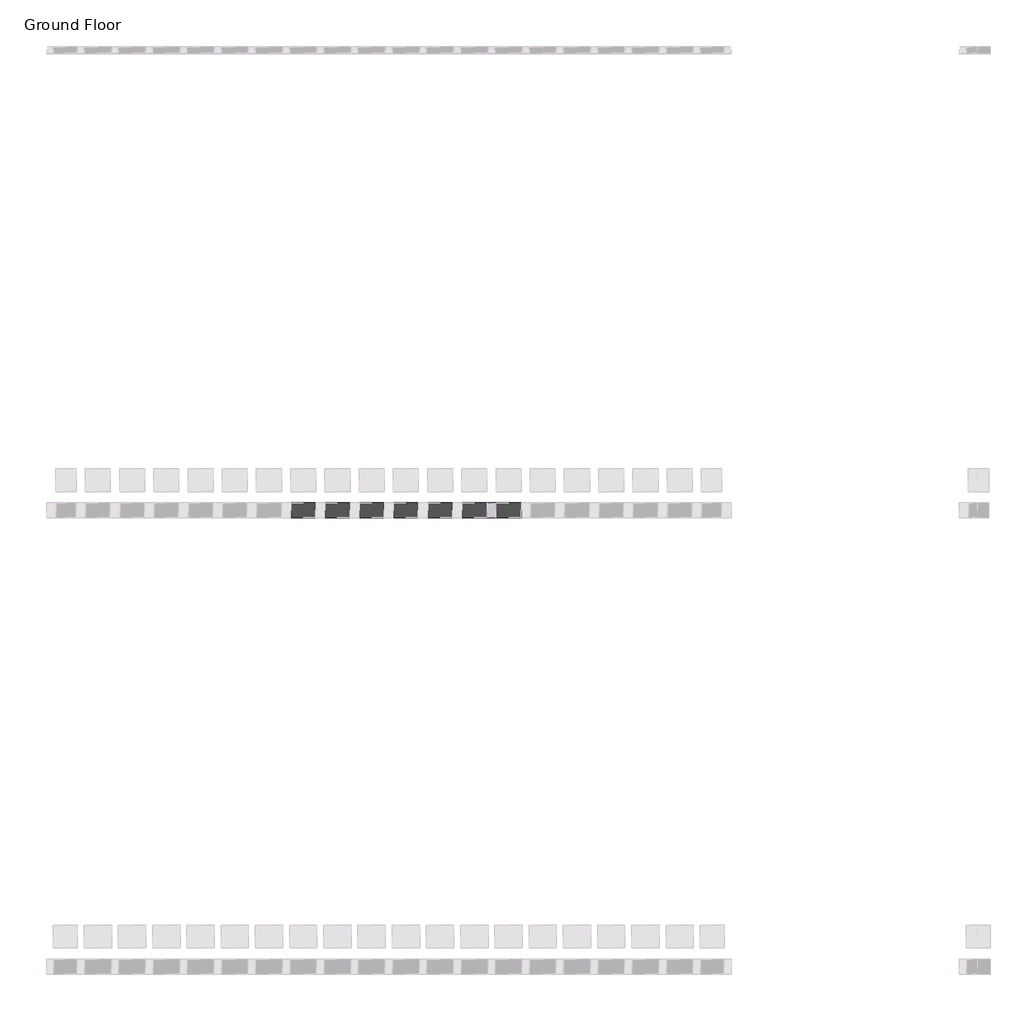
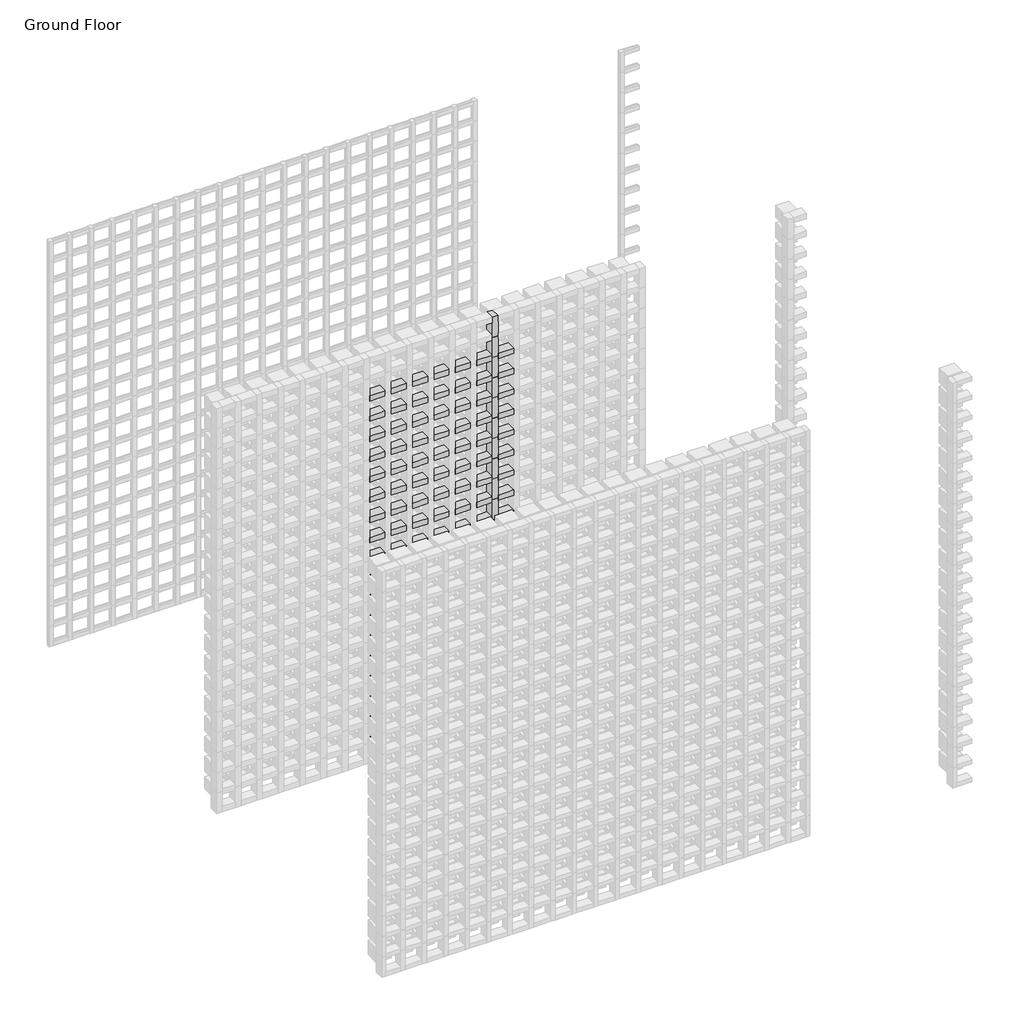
# One storey, part 99 of 350: 145 members.
"""IFC4 building model written with IfcOpenShell, lengths in millimetres."""

from ifc_helpers import new_model, si_unit, origin, place, context, project, spatial, transform, mapped, element, save
from components import rectangular_mullion_d93f5598, rectangular_mullion_655930e9

model = new_model("IFC4")

# Units and contexts
model_context = context("Model", 3, world=origin())
ifc_project = project(units=[si_unit("LENGTHUNIT", "METRE", prefix="MILLI")], contexts=[model_context])

# Site, building, storey
site = spatial("IfcSite", under=ifc_project)
building = spatial("IfcBuilding", under=site)
storey = spatial("IfcBuildingStorey", under=building, Name="Ground Floor", Elevation=0.0)

# Members
placement = place(None, origin())
rectangular_mullion_shape = rectangular_mullion_d93f5598(model_context)
element("IfcMember", 1, ObjectType="Rectangular Mullion : Batten_Timber_Modinex_Austratus_Grid_Fascia_40x65_Blackbutt", at=placement, inside=storey, context=model_context, shape_type="MappedRepresentation", body=[
    mapped(rectangular_mullion_shape, transform((7096.4361642, 40968.2978302, 150.0), x_axis=(0.0, 0.0, 1.0), y_axis=(0.0, -1.0, 0.0), z_axis=(1.0, 0.0, 0.0))),
])
element("IfcMember", 2, ObjectType="Rectangular Mullion : Batten_Timber_Modinex_Austratus_Grid_Fascia_40x65_Blackbutt", at=placement, inside=storey, context=model_context, shape_type="MappedRepresentation", body=[
    mapped(rectangular_mullion_shape, transform((7246.4361642, 40968.2978302, 150.0), x_axis=(0.0, 0.0, 1.0), y_axis=(0.0, -1.0, 0.0), z_axis=(1.0, 0.0, 0.0))),
])
element("IfcMember", 3, ObjectType="Rectangular Mullion : Batten_Timber_Modinex_Austratus_Grid_Fascia_40x65_Blackbutt", at=placement, inside=storey, context=model_context, shape_type="MappedRepresentation", body=[
    mapped(rectangular_mullion_shape, transform((7396.4361642, 40968.2978302, 150.0), x_axis=(0.0, 0.0, 1.0), y_axis=(0.0, -1.0, 0.0), z_axis=(1.0, 0.0, 0.0))),
])
element("IfcMember", 4, ObjectType="Rectangular Mullion : Batten_Timber_Modinex_Austratus_Grid_Fascia_40x65_Blackbutt", at=placement, inside=storey, context=model_context, shape_type="MappedRepresentation", body=[
    mapped(rectangular_mullion_shape, transform((7546.4361642, 40968.2978302, 150.0), x_axis=(0.0, 0.0, 1.0), y_axis=(0.0, -1.0, 0.0), z_axis=(1.0, 0.0, 0.0))),
])
element("IfcMember", 5, ObjectType="Rectangular Mullion : Batten_Timber_Modinex_Austratus_Grid_Fascia_40x65_Blackbutt", at=placement, inside=storey, context=model_context, shape_type="MappedRepresentation", body=[
    mapped(rectangular_mullion_shape, transform((7696.4361642, 40968.2978302, 150.0), x_axis=(0.0, 0.0, 1.0), y_axis=(0.0, -1.0, 0.0), z_axis=(1.0, 0.0, 0.0))),
])
element("IfcMember", 6, ObjectType="Rectangular Mullion : Batten_Timber_Modinex_Austratus_Grid_Fascia_40x65_Blackbutt", at=placement, inside=storey, context=model_context, shape_type="MappedRepresentation", body=[
    mapped(rectangular_mullion_shape, transform((7846.4361642, 40968.2978302, 150.0), x_axis=(0.0, 0.0, 1.0), y_axis=(0.0, -1.0, 0.0), z_axis=(1.0, 0.0, 0.0))),
])
element("IfcMember", 7, ObjectType="Rectangular Mullion : Batten_Timber_Modinex_Austratus_Grid_Fascia_40x65_Blackbutt", at=placement, inside=storey, context=model_context, shape_type="MappedRepresentation", body=[
    mapped(rectangular_mullion_shape, transform((7996.4361642, 40968.2978302, 150.0), x_axis=(0.0, 0.0, 1.0), y_axis=(0.0, -1.0, 0.0), z_axis=(1.0, 0.0, 0.0))),
])
element("IfcMember", 8, ObjectType="Rectangular Mullion : Batten_Timber_Modinex_Austratus_Grid_Fascia_40x65_Blackbutt", at=placement, inside=storey, context=model_context, shape_type="MappedRepresentation", body=[
    mapped(rectangular_mullion_shape, transform((7096.4361642, 40968.2978302, 300.0), x_axis=(0.0, 0.0, 1.0), y_axis=(0.0, -1.0, 0.0), z_axis=(1.0, 0.0, 0.0))),
])
element("IfcMember", 9, ObjectType="Rectangular Mullion : Batten_Timber_Modinex_Austratus_Grid_Fascia_40x65_Blackbutt", at=placement, inside=storey, context=model_context, shape_type="MappedRepresentation", body=[
    mapped(rectangular_mullion_shape, transform((7246.4361642, 40968.2978302, 300.0), x_axis=(0.0, 0.0, 1.0), y_axis=(0.0, -1.0, 0.0), z_axis=(1.0, 0.0, 0.0))),
])
element("IfcMember", 10, ObjectType="Rectangular Mullion : Batten_Timber_Modinex_Austratus_Grid_Fascia_40x65_Blackbutt", at=placement, inside=storey, context=model_context, shape_type="MappedRepresentation", body=[
    mapped(rectangular_mullion_shape, transform((7396.4361642, 40968.2978302, 300.0), x_axis=(0.0, 0.0, 1.0), y_axis=(0.0, -1.0, 0.0), z_axis=(1.0, 0.0, 0.0))),
])
element("IfcMember", 11, ObjectType="Rectangular Mullion : Batten_Timber_Modinex_Austratus_Grid_Fascia_40x65_Blackbutt", at=placement, inside=storey, context=model_context, shape_type="MappedRepresentation", body=[
    mapped(rectangular_mullion_shape, transform((7546.4361642, 40968.2978302, 300.0), x_axis=(0.0, 0.0, 1.0), y_axis=(0.0, -1.0, 0.0), z_axis=(1.0, 0.0, 0.0))),
])
element("IfcMember", 12, ObjectType="Rectangular Mullion : Batten_Timber_Modinex_Austratus_Grid_Fascia_40x65_Blackbutt", at=placement, inside=storey, context=model_context, shape_type="MappedRepresentation", body=[
    mapped(rectangular_mullion_shape, transform((7696.4361642, 40968.2978302, 300.0), x_axis=(0.0, 0.0, 1.0), y_axis=(0.0, -1.0, 0.0), z_axis=(1.0, 0.0, 0.0))),
])
element("IfcMember", 13, ObjectType="Rectangular Mullion : Batten_Timber_Modinex_Austratus_Grid_Fascia_40x65_Blackbutt", at=placement, inside=storey, context=model_context, shape_type="MappedRepresentation", body=[
    mapped(rectangular_mullion_shape, transform((7846.4361642, 40968.2978302, 300.0), x_axis=(0.0, 0.0, 1.0), y_axis=(0.0, -1.0, 0.0), z_axis=(1.0, 0.0, 0.0))),
])
element("IfcMember", 14, ObjectType="Rectangular Mullion : Batten_Timber_Modinex_Austratus_Grid_Fascia_40x65_Blackbutt", at=placement, inside=storey, context=model_context, shape_type="MappedRepresentation", body=[
    mapped(rectangular_mullion_shape, transform((7996.4361642, 40968.2978302, 300.0), x_axis=(0.0, 0.0, 1.0), y_axis=(0.0, -1.0, 0.0), z_axis=(1.0, 0.0, 0.0))),
])
element("IfcMember", 15, ObjectType="Rectangular Mullion : Batten_Timber_Modinex_Austratus_Grid_Fascia_40x65_Blackbutt", at=placement, inside=storey, context=model_context, shape_type="MappedRepresentation", body=[
    mapped(rectangular_mullion_shape, transform((7096.4361642, 40968.2978302, 450.0), x_axis=(0.0, 0.0, 1.0), y_axis=(0.0, -1.0, 0.0), z_axis=(1.0, 0.0, 0.0))),
])
element("IfcMember", 16, ObjectType="Rectangular Mullion : Batten_Timber_Modinex_Austratus_Grid_Fascia_40x65_Blackbutt", at=placement, inside=storey, context=model_context, shape_type="MappedRepresentation", body=[
    mapped(rectangular_mullion_shape, transform((7246.4361642, 40968.2978302, 450.0), x_axis=(0.0, 0.0, 1.0), y_axis=(0.0, -1.0, 0.0), z_axis=(1.0, 0.0, 0.0))),
])
element("IfcMember", 17, ObjectType="Rectangular Mullion : Batten_Timber_Modinex_Austratus_Grid_Fascia_40x65_Blackbutt", at=placement, inside=storey, context=model_context, shape_type="MappedRepresentation", body=[
    mapped(rectangular_mullion_shape, transform((7396.4361642, 40968.2978302, 450.0), x_axis=(0.0, 0.0, 1.0), y_axis=(0.0, -1.0, 0.0), z_axis=(1.0, 0.0, 0.0))),
])
element("IfcMember", 18, ObjectType="Rectangular Mullion : Batten_Timber_Modinex_Austratus_Grid_Fascia_40x65_Blackbutt", at=placement, inside=storey, context=model_context, shape_type="MappedRepresentation", body=[
    mapped(rectangular_mullion_shape, transform((7546.4361642, 40968.2978302, 450.0), x_axis=(0.0, 0.0, 1.0), y_axis=(0.0, -1.0, 0.0), z_axis=(1.0, 0.0, 0.0))),
])
element("IfcMember", 19, ObjectType="Rectangular Mullion : Batten_Timber_Modinex_Austratus_Grid_Fascia_40x65_Blackbutt", at=placement, inside=storey, context=model_context, shape_type="MappedRepresentation", body=[
    mapped(rectangular_mullion_shape, transform((7696.4361642, 40968.2978302, 450.0), x_axis=(0.0, 0.0, 1.0), y_axis=(0.0, -1.0, 0.0), z_axis=(1.0, 0.0, 0.0))),
])
element("IfcMember", 20, ObjectType="Rectangular Mullion : Batten_Timber_Modinex_Austratus_Grid_Fascia_40x65_Blackbutt", at=placement, inside=storey, context=model_context, shape_type="MappedRepresentation", body=[
    mapped(rectangular_mullion_shape, transform((7846.4361642, 40968.2978302, 450.0), x_axis=(0.0, 0.0, 1.0), y_axis=(0.0, -1.0, 0.0), z_axis=(1.0, 0.0, 0.0))),
])
element("IfcMember", 21, ObjectType="Rectangular Mullion : Batten_Timber_Modinex_Austratus_Grid_Fascia_40x65_Blackbutt", at=placement, inside=storey, context=model_context, shape_type="MappedRepresentation", body=[
    mapped(rectangular_mullion_shape, transform((7996.4361642, 40968.2978302, 450.0), x_axis=(0.0, 0.0, 1.0), y_axis=(0.0, -1.0, 0.0), z_axis=(1.0, 0.0, 0.0))),
])
element("IfcMember", 22, ObjectType="Rectangular Mullion : Batten_Timber_Modinex_Austratus_Grid_Fascia_40x65_Blackbutt", at=placement, inside=storey, context=model_context, shape_type="MappedRepresentation", body=[
    mapped(rectangular_mullion_shape, transform((7096.4361642, 40968.2978302, 600.0), x_axis=(0.0, 0.0, 1.0), y_axis=(0.0, -1.0, 0.0), z_axis=(1.0, 0.0, 0.0))),
])
element("IfcMember", 23, ObjectType="Rectangular Mullion : Batten_Timber_Modinex_Austratus_Grid_Fascia_40x65_Blackbutt", at=placement, inside=storey, context=model_context, shape_type="MappedRepresentation", body=[
    mapped(rectangular_mullion_shape, transform((7246.4361642, 40968.2978302, 600.0), x_axis=(0.0, 0.0, 1.0), y_axis=(0.0, -1.0, 0.0), z_axis=(1.0, 0.0, 0.0))),
])
element("IfcMember", 24, ObjectType="Rectangular Mullion : Batten_Timber_Modinex_Austratus_Grid_Fascia_40x65_Blackbutt", at=placement, inside=storey, context=model_context, shape_type="MappedRepresentation", body=[
    mapped(rectangular_mullion_shape, transform((7396.4361642, 40968.2978302, 600.0), x_axis=(0.0, 0.0, 1.0), y_axis=(0.0, -1.0, 0.0), z_axis=(1.0, 0.0, 0.0))),
])
element("IfcMember", 25, ObjectType="Rectangular Mullion : Batten_Timber_Modinex_Austratus_Grid_Fascia_40x65_Blackbutt", at=placement, inside=storey, context=model_context, shape_type="MappedRepresentation", body=[
    mapped(rectangular_mullion_shape, transform((7546.4361642, 40968.2978302, 600.0), x_axis=(0.0, 0.0, 1.0), y_axis=(0.0, -1.0, 0.0), z_axis=(1.0, 0.0, 0.0))),
])
element("IfcMember", 26, ObjectType="Rectangular Mullion : Batten_Timber_Modinex_Austratus_Grid_Fascia_40x65_Blackbutt", at=placement, inside=storey, context=model_context, shape_type="MappedRepresentation", body=[
    mapped(rectangular_mullion_shape, transform((7696.4361642, 40968.2978302, 600.0), x_axis=(0.0, 0.0, 1.0), y_axis=(0.0, -1.0, 0.0), z_axis=(1.0, 0.0, 0.0))),
])
element("IfcMember", 27, ObjectType="Rectangular Mullion : Batten_Timber_Modinex_Austratus_Grid_Fascia_40x65_Blackbutt", at=placement, inside=storey, context=model_context, shape_type="MappedRepresentation", body=[
    mapped(rectangular_mullion_shape, transform((7846.4361642, 40968.2978302, 600.0), x_axis=(0.0, 0.0, 1.0), y_axis=(0.0, -1.0, 0.0), z_axis=(1.0, 0.0, 0.0))),
])
element("IfcMember", 28, ObjectType="Rectangular Mullion : Batten_Timber_Modinex_Austratus_Grid_Fascia_40x65_Blackbutt", at=placement, inside=storey, context=model_context, shape_type="MappedRepresentation", body=[
    mapped(rectangular_mullion_shape, transform((7996.4361642, 40968.2978302, 600.0), x_axis=(0.0, 0.0, 1.0), y_axis=(0.0, -1.0, 0.0), z_axis=(1.0, 0.0, 0.0))),
])
element("IfcMember", 29, ObjectType="Rectangular Mullion : Batten_Timber_Modinex_Austratus_Grid_Fascia_40x65_Blackbutt", at=placement, inside=storey, context=model_context, shape_type="MappedRepresentation", body=[
    mapped(rectangular_mullion_shape, transform((7096.4361642, 40968.2978302, 750.0), x_axis=(0.0, 0.0, 1.0), y_axis=(0.0, -1.0, 0.0), z_axis=(1.0, 0.0, 0.0))),
])
element("IfcMember", 30, ObjectType="Rectangular Mullion : Batten_Timber_Modinex_Austratus_Grid_Fascia_40x65_Blackbutt", at=placement, inside=storey, context=model_context, shape_type="MappedRepresentation", body=[
    mapped(rectangular_mullion_shape, transform((7246.4361642, 40968.2978302, 750.0), x_axis=(0.0, 0.0, 1.0), y_axis=(0.0, -1.0, 0.0), z_axis=(1.0, 0.0, 0.0))),
])
element("IfcMember", 31, ObjectType="Rectangular Mullion : Batten_Timber_Modinex_Austratus_Grid_Fascia_40x65_Blackbutt", at=placement, inside=storey, context=model_context, shape_type="MappedRepresentation", body=[
    mapped(rectangular_mullion_shape, transform((7396.4361642, 40968.2978302, 750.0), x_axis=(0.0, 0.0, 1.0), y_axis=(0.0, -1.0, 0.0), z_axis=(1.0, 0.0, 0.0))),
])
element("IfcMember", 32, ObjectType="Rectangular Mullion : Batten_Timber_Modinex_Austratus_Grid_Fascia_40x65_Blackbutt", at=placement, inside=storey, context=model_context, shape_type="MappedRepresentation", body=[
    mapped(rectangular_mullion_shape, transform((7546.4361642, 40968.2978302, 750.0), x_axis=(0.0, 0.0, 1.0), y_axis=(0.0, -1.0, 0.0), z_axis=(1.0, 0.0, 0.0))),
])
element("IfcMember", 33, ObjectType="Rectangular Mullion : Batten_Timber_Modinex_Austratus_Grid_Fascia_40x65_Blackbutt", at=placement, inside=storey, context=model_context, shape_type="MappedRepresentation", body=[
    mapped(rectangular_mullion_shape, transform((7696.4361642, 40968.2978302, 750.0), x_axis=(0.0, 0.0, 1.0), y_axis=(0.0, -1.0, 0.0), z_axis=(1.0, 0.0, 0.0))),
])
element("IfcMember", 34, ObjectType="Rectangular Mullion : Batten_Timber_Modinex_Austratus_Grid_Fascia_40x65_Blackbutt", at=placement, inside=storey, context=model_context, shape_type="MappedRepresentation", body=[
    mapped(rectangular_mullion_shape, transform((7846.4361642, 40968.2978302, 750.0), x_axis=(0.0, 0.0, 1.0), y_axis=(0.0, -1.0, 0.0), z_axis=(1.0, 0.0, 0.0))),
])
element("IfcMember", 35, ObjectType="Rectangular Mullion : Batten_Timber_Modinex_Austratus_Grid_Fascia_40x65_Blackbutt", at=placement, inside=storey, context=model_context, shape_type="MappedRepresentation", body=[
    mapped(rectangular_mullion_shape, transform((7996.4361642, 40968.2978302, 750.0), x_axis=(0.0, 0.0, 1.0), y_axis=(0.0, -1.0, 0.0), z_axis=(1.0, 0.0, 0.0))),
])
element("IfcMember", 36, ObjectType="Rectangular Mullion : Batten_Timber_Modinex_Austratus_Grid_Fascia_40x65_Blackbutt", at=placement, inside=storey, context=model_context, shape_type="MappedRepresentation", body=[
    mapped(rectangular_mullion_shape, transform((7096.4361642, 40968.2978302, 900.0), x_axis=(0.0, 0.0, 1.0), y_axis=(0.0, -1.0, 0.0), z_axis=(1.0, 0.0, 0.0))),
])
element("IfcMember", 37, ObjectType="Rectangular Mullion : Batten_Timber_Modinex_Austratus_Grid_Fascia_40x65_Blackbutt", at=placement, inside=storey, context=model_context, shape_type="MappedRepresentation", body=[
    mapped(rectangular_mullion_shape, transform((7246.4361642, 40968.2978302, 900.0), x_axis=(0.0, 0.0, 1.0), y_axis=(0.0, -1.0, 0.0), z_axis=(1.0, 0.0, 0.0))),
])
element("IfcMember", 38, ObjectType="Rectangular Mullion : Batten_Timber_Modinex_Austratus_Grid_Fascia_40x65_Blackbutt", at=placement, inside=storey, context=model_context, shape_type="MappedRepresentation", body=[
    mapped(rectangular_mullion_shape, transform((7396.4361642, 40968.2978302, 900.0), x_axis=(0.0, 0.0, 1.0), y_axis=(0.0, -1.0, 0.0), z_axis=(1.0, 0.0, 0.0))),
])
element("IfcMember", 39, ObjectType="Rectangular Mullion : Batten_Timber_Modinex_Austratus_Grid_Fascia_40x65_Blackbutt", at=placement, inside=storey, context=model_context, shape_type="MappedRepresentation", body=[
    mapped(rectangular_mullion_shape, transform((7546.4361642, 40968.2978302, 900.0), x_axis=(0.0, 0.0, 1.0), y_axis=(0.0, -1.0, 0.0), z_axis=(1.0, 0.0, 0.0))),
])
element("IfcMember", 40, ObjectType="Rectangular Mullion : Batten_Timber_Modinex_Austratus_Grid_Fascia_40x65_Blackbutt", at=placement, inside=storey, context=model_context, shape_type="MappedRepresentation", body=[
    mapped(rectangular_mullion_shape, transform((7696.4361642, 40968.2978302, 900.0), x_axis=(0.0, 0.0, 1.0), y_axis=(0.0, -1.0, 0.0), z_axis=(1.0, 0.0, 0.0))),
])
element("IfcMember", 41, ObjectType="Rectangular Mullion : Batten_Timber_Modinex_Austratus_Grid_Fascia_40x65_Blackbutt", at=placement, inside=storey, context=model_context, shape_type="MappedRepresentation", body=[
    mapped(rectangular_mullion_shape, transform((7846.4361642, 40968.2978302, 900.0), x_axis=(0.0, 0.0, 1.0), y_axis=(0.0, -1.0, 0.0), z_axis=(1.0, 0.0, 0.0))),
])
element("IfcMember", 42, ObjectType="Rectangular Mullion : Batten_Timber_Modinex_Austratus_Grid_Fascia_40x65_Blackbutt", at=placement, inside=storey, context=model_context, shape_type="MappedRepresentation", body=[
    mapped(rectangular_mullion_shape, transform((7996.4361642, 40968.2978302, 900.0), x_axis=(0.0, 0.0, 1.0), y_axis=(0.0, -1.0, 0.0), z_axis=(1.0, 0.0, 0.0))),
])
element("IfcMember", 43, ObjectType="Rectangular Mullion : Batten_Timber_Modinex_Austratus_Grid_Fascia_40x65_Blackbutt", at=placement, inside=storey, context=model_context, shape_type="MappedRepresentation", body=[
    mapped(rectangular_mullion_shape, transform((7096.4361642, 40968.2978302, 1050.0), x_axis=(0.0, 0.0, 1.0), y_axis=(0.0, -1.0, 0.0), z_axis=(1.0, 0.0, 0.0))),
])
element("IfcMember", 44, ObjectType="Rectangular Mullion : Batten_Timber_Modinex_Austratus_Grid_Fascia_40x65_Blackbutt", at=placement, inside=storey, context=model_context, shape_type="MappedRepresentation", body=[
    mapped(rectangular_mullion_shape, transform((7246.4361642, 40968.2978302, 1050.0), x_axis=(0.0, 0.0, 1.0), y_axis=(0.0, -1.0, 0.0), z_axis=(1.0, 0.0, 0.0))),
])
element("IfcMember", 45, ObjectType="Rectangular Mullion : Batten_Timber_Modinex_Austratus_Grid_Fascia_40x65_Blackbutt", at=placement, inside=storey, context=model_context, shape_type="MappedRepresentation", body=[
    mapped(rectangular_mullion_shape, transform((7396.4361642, 40968.2978302, 1050.0), x_axis=(0.0, 0.0, 1.0), y_axis=(0.0, -1.0, 0.0), z_axis=(1.0, 0.0, 0.0))),
])
element("IfcMember", 46, ObjectType="Rectangular Mullion : Batten_Timber_Modinex_Austratus_Grid_Fascia_40x65_Blackbutt", at=placement, inside=storey, context=model_context, shape_type="MappedRepresentation", body=[
    mapped(rectangular_mullion_shape, transform((7546.4361642, 40968.2978302, 1050.0), x_axis=(0.0, 0.0, 1.0), y_axis=(0.0, -1.0, 0.0), z_axis=(1.0, 0.0, 0.0))),
])
element("IfcMember", 47, ObjectType="Rectangular Mullion : Batten_Timber_Modinex_Austratus_Grid_Fascia_40x65_Blackbutt", at=placement, inside=storey, context=model_context, shape_type="MappedRepresentation", body=[
    mapped(rectangular_mullion_shape, transform((7696.4361642, 40968.2978302, 1050.0), x_axis=(0.0, 0.0, 1.0), y_axis=(0.0, -1.0, 0.0), z_axis=(1.0, 0.0, 0.0))),
])
element("IfcMember", 48, ObjectType="Rectangular Mullion : Batten_Timber_Modinex_Austratus_Grid_Fascia_40x65_Blackbutt", at=placement, inside=storey, context=model_context, shape_type="MappedRepresentation", body=[
    mapped(rectangular_mullion_shape, transform((7846.4361642, 40968.2978302, 1050.0), x_axis=(0.0, 0.0, 1.0), y_axis=(0.0, -1.0, 0.0), z_axis=(1.0, 0.0, 0.0))),
])
element("IfcMember", 49, ObjectType="Rectangular Mullion : Batten_Timber_Modinex_Austratus_Grid_Fascia_40x65_Blackbutt", at=placement, inside=storey, context=model_context, shape_type="MappedRepresentation", body=[
    mapped(rectangular_mullion_shape, transform((7996.4361642, 40968.2978302, 1050.0), x_axis=(0.0, 0.0, 1.0), y_axis=(0.0, -1.0, 0.0), z_axis=(1.0, 0.0, 0.0))),
])
element("IfcMember", 50, ObjectType="Rectangular Mullion : Batten_Timber_Modinex_Austratus_Grid_Fascia_40x65_Blackbutt", at=placement, inside=storey, context=model_context, shape_type="MappedRepresentation", body=[
    mapped(rectangular_mullion_shape, transform((7096.4361642, 40968.2978302, 1200.0), x_axis=(0.0, 0.0, 1.0), y_axis=(0.0, -1.0, 0.0), z_axis=(1.0, 0.0, 0.0))),
])
element("IfcMember", 51, ObjectType="Rectangular Mullion : Batten_Timber_Modinex_Austratus_Grid_Fascia_40x65_Blackbutt", at=placement, inside=storey, context=model_context, shape_type="MappedRepresentation", body=[
    mapped(rectangular_mullion_shape, transform((7246.4361642, 40968.2978302, 1200.0), x_axis=(0.0, 0.0, 1.0), y_axis=(0.0, -1.0, 0.0), z_axis=(1.0, 0.0, 0.0))),
])
element("IfcMember", 52, ObjectType="Rectangular Mullion : Batten_Timber_Modinex_Austratus_Grid_Fascia_40x65_Blackbutt", at=placement, inside=storey, context=model_context, shape_type="MappedRepresentation", body=[
    mapped(rectangular_mullion_shape, transform((7396.4361642, 40968.2978302, 1200.0), x_axis=(0.0, 0.0, 1.0), y_axis=(0.0, -1.0, 0.0), z_axis=(1.0, 0.0, 0.0))),
])
element("IfcMember", 53, ObjectType="Rectangular Mullion : Batten_Timber_Modinex_Austratus_Grid_Fascia_40x65_Blackbutt", at=placement, inside=storey, context=model_context, shape_type="MappedRepresentation", body=[
    mapped(rectangular_mullion_shape, transform((7546.4361642, 40968.2978302, 1200.0), x_axis=(0.0, 0.0, 1.0), y_axis=(0.0, -1.0, 0.0), z_axis=(1.0, 0.0, 0.0))),
])
element("IfcMember", 54, ObjectType="Rectangular Mullion : Batten_Timber_Modinex_Austratus_Grid_Fascia_40x65_Blackbutt", at=placement, inside=storey, context=model_context, shape_type="MappedRepresentation", body=[
    mapped(rectangular_mullion_shape, transform((7696.4361642, 40968.2978302, 1200.0), x_axis=(0.0, 0.0, 1.0), y_axis=(0.0, -1.0, 0.0), z_axis=(1.0, 0.0, 0.0))),
])
element("IfcMember", 55, ObjectType="Rectangular Mullion : Batten_Timber_Modinex_Austratus_Grid_Fascia_40x65_Blackbutt", at=placement, inside=storey, context=model_context, shape_type="MappedRepresentation", body=[
    mapped(rectangular_mullion_shape, transform((7846.4361642, 40968.2978302, 1200.0), x_axis=(0.0, 0.0, 1.0), y_axis=(0.0, -1.0, 0.0), z_axis=(1.0, 0.0, 0.0))),
])
element("IfcMember", 56, ObjectType="Rectangular Mullion : Batten_Timber_Modinex_Austratus_Grid_Fascia_40x65_Blackbutt", at=placement, inside=storey, context=model_context, shape_type="MappedRepresentation", body=[
    mapped(rectangular_mullion_shape, transform((7996.4361642, 40968.2978302, 1200.0), x_axis=(0.0, 0.0, 1.0), y_axis=(0.0, -1.0, 0.0), z_axis=(1.0, 0.0, 0.0))),
])
element("IfcMember", 57, ObjectType="Rectangular Mullion : Batten_Timber_Modinex_Austratus_Grid_Fascia_40x65_Blackbutt", at=placement, inside=storey, context=model_context, shape_type="MappedRepresentation", body=[
    mapped(rectangular_mullion_shape, transform((7096.4361642, 40968.2978302, 1350.0), x_axis=(0.0, 0.0, 1.0), y_axis=(0.0, -1.0, 0.0), z_axis=(1.0, 0.0, 0.0))),
])
element("IfcMember", 58, ObjectType="Rectangular Mullion : Batten_Timber_Modinex_Austratus_Grid_Fascia_40x65_Blackbutt", at=placement, inside=storey, context=model_context, shape_type="MappedRepresentation", body=[
    mapped(rectangular_mullion_shape, transform((7246.4361642, 40968.2978302, 1350.0), x_axis=(0.0, 0.0, 1.0), y_axis=(0.0, -1.0, 0.0), z_axis=(1.0, 0.0, 0.0))),
])
element("IfcMember", 59, ObjectType="Rectangular Mullion : Batten_Timber_Modinex_Austratus_Grid_Fascia_40x65_Blackbutt", at=placement, inside=storey, context=model_context, shape_type="MappedRepresentation", body=[
    mapped(rectangular_mullion_shape, transform((7396.4361642, 40968.2978302, 1350.0), x_axis=(0.0, 0.0, 1.0), y_axis=(0.0, -1.0, 0.0), z_axis=(1.0, 0.0, 0.0))),
])
element("IfcMember", 60, ObjectType="Rectangular Mullion : Batten_Timber_Modinex_Austratus_Grid_Fascia_40x65_Blackbutt", at=placement, inside=storey, context=model_context, shape_type="MappedRepresentation", body=[
    mapped(rectangular_mullion_shape, transform((7546.4361642, 40968.2978302, 1350.0), x_axis=(0.0, 0.0, 1.0), y_axis=(0.0, -1.0, 0.0), z_axis=(1.0, 0.0, 0.0))),
])
element("IfcMember", 61, ObjectType="Rectangular Mullion : Batten_Timber_Modinex_Austratus_Grid_Fascia_40x65_Blackbutt", at=placement, inside=storey, context=model_context, shape_type="MappedRepresentation", body=[
    mapped(rectangular_mullion_shape, transform((7696.4361642, 40968.2978302, 1350.0), x_axis=(0.0, 0.0, 1.0), y_axis=(0.0, -1.0, 0.0), z_axis=(1.0, 0.0, 0.0))),
])
element("IfcMember", 62, ObjectType="Rectangular Mullion : Batten_Timber_Modinex_Austratus_Grid_Fascia_40x65_Blackbutt", at=placement, inside=storey, context=model_context, shape_type="MappedRepresentation", body=[
    mapped(rectangular_mullion_shape, transform((7846.4361642, 40968.2978302, 1350.0), x_axis=(0.0, 0.0, 1.0), y_axis=(0.0, -1.0, 0.0), z_axis=(1.0, 0.0, 0.0))),
])
element("IfcMember", 63, ObjectType="Rectangular Mullion : Batten_Timber_Modinex_Austratus_Grid_Fascia_40x65_Blackbutt", at=placement, inside=storey, context=model_context, shape_type="MappedRepresentation", body=[
    mapped(rectangular_mullion_shape, transform((7996.4361642, 40968.2978302, 1350.0), x_axis=(0.0, 0.0, 1.0), y_axis=(0.0, -1.0, 0.0), z_axis=(1.0, 0.0, 0.0))),
])
element("IfcMember", 64, ObjectType="Rectangular Mullion : Batten_Timber_Modinex_Austratus_Grid_Fascia_40x65_Blackbutt", at=placement, inside=storey, context=model_context, shape_type="MappedRepresentation", body=[
    mapped(rectangular_mullion_shape, transform((7096.4361642, 40968.2978302, 1500.0), x_axis=(0.0, 0.0, 1.0), y_axis=(0.0, -1.0, 0.0), z_axis=(1.0, 0.0, 0.0))),
])
element("IfcMember", 65, ObjectType="Rectangular Mullion : Batten_Timber_Modinex_Austratus_Grid_Fascia_40x65_Blackbutt", at=placement, inside=storey, context=model_context, shape_type="MappedRepresentation", body=[
    mapped(rectangular_mullion_shape, transform((7246.4361642, 40968.2978302, 1500.0), x_axis=(0.0, 0.0, 1.0), y_axis=(0.0, -1.0, 0.0), z_axis=(1.0, 0.0, 0.0))),
])
element("IfcMember", 66, ObjectType="Rectangular Mullion : Batten_Timber_Modinex_Austratus_Grid_Fascia_40x65_Blackbutt", at=placement, inside=storey, context=model_context, shape_type="MappedRepresentation", body=[
    mapped(rectangular_mullion_shape, transform((7396.4361642, 40968.2978302, 1500.0), x_axis=(0.0, 0.0, 1.0), y_axis=(0.0, -1.0, 0.0), z_axis=(1.0, 0.0, 0.0))),
])
element("IfcMember", 67, ObjectType="Rectangular Mullion : Batten_Timber_Modinex_Austratus_Grid_Fascia_40x65_Blackbutt", at=placement, inside=storey, context=model_context, shape_type="MappedRepresentation", body=[
    mapped(rectangular_mullion_shape, transform((7546.4361642, 40968.2978302, 1500.0), x_axis=(0.0, 0.0, 1.0), y_axis=(0.0, -1.0, 0.0), z_axis=(1.0, 0.0, 0.0))),
])
element("IfcMember", 68, ObjectType="Rectangular Mullion : Batten_Timber_Modinex_Austratus_Grid_Fascia_40x65_Blackbutt", at=placement, inside=storey, context=model_context, shape_type="MappedRepresentation", body=[
    mapped(rectangular_mullion_shape, transform((7696.4361642, 40968.2978302, 1500.0), x_axis=(0.0, 0.0, 1.0), y_axis=(0.0, -1.0, 0.0), z_axis=(1.0, 0.0, 0.0))),
])
element("IfcMember", 69, ObjectType="Rectangular Mullion : Batten_Timber_Modinex_Austratus_Grid_Fascia_40x65_Blackbutt", at=placement, inside=storey, context=model_context, shape_type="MappedRepresentation", body=[
    mapped(rectangular_mullion_shape, transform((7846.4361642, 40968.2978302, 1500.0), x_axis=(0.0, 0.0, 1.0), y_axis=(0.0, -1.0, 0.0), z_axis=(1.0, 0.0, 0.0))),
])
element("IfcMember", 70, ObjectType="Rectangular Mullion : Batten_Timber_Modinex_Austratus_Grid_Fascia_40x65_Blackbutt", at=placement, inside=storey, context=model_context, shape_type="MappedRepresentation", body=[
    mapped(rectangular_mullion_shape, transform((7996.4361642, 40968.2978302, 1500.0), x_axis=(0.0, 0.0, 1.0), y_axis=(0.0, -1.0, 0.0), z_axis=(1.0, 0.0, 0.0))),
])
element("IfcMember", 71, ObjectType="Rectangular Mullion : Batten_Timber_Modinex_Austratus_Grid_Fascia_40x65_Blackbutt", at=placement, inside=storey, context=model_context, shape_type="MappedRepresentation", body=[
    mapped(rectangular_mullion_shape, transform((7096.4361642, 40968.2978302, 1650.0), x_axis=(0.0, 0.0, 1.0), y_axis=(0.0, -1.0, 0.0), z_axis=(1.0, 0.0, 0.0))),
])
element("IfcMember", 72, ObjectType="Rectangular Mullion : Batten_Timber_Modinex_Austratus_Grid_Fascia_40x65_Blackbutt", at=placement, inside=storey, context=model_context, shape_type="MappedRepresentation", body=[
    mapped(rectangular_mullion_shape, transform((7246.4361642, 40968.2978302, 1650.0), x_axis=(0.0, 0.0, 1.0), y_axis=(0.0, -1.0, 0.0), z_axis=(1.0, 0.0, 0.0))),
])
element("IfcMember", 73, ObjectType="Rectangular Mullion : Batten_Timber_Modinex_Austratus_Grid_Fascia_40x65_Blackbutt", at=placement, inside=storey, context=model_context, shape_type="MappedRepresentation", body=[
    mapped(rectangular_mullion_shape, transform((7396.4361642, 40968.2978302, 1650.0), x_axis=(0.0, 0.0, 1.0), y_axis=(0.0, -1.0, 0.0), z_axis=(1.0, 0.0, 0.0))),
])
element("IfcMember", 74, ObjectType="Rectangular Mullion : Batten_Timber_Modinex_Austratus_Grid_Fascia_40x65_Blackbutt", at=placement, inside=storey, context=model_context, shape_type="MappedRepresentation", body=[
    mapped(rectangular_mullion_shape, transform((7546.4361642, 40968.2978302, 1650.0), x_axis=(0.0, 0.0, 1.0), y_axis=(0.0, -1.0, 0.0), z_axis=(1.0, 0.0, 0.0))),
])
element("IfcMember", 75, ObjectType="Rectangular Mullion : Batten_Timber_Modinex_Austratus_Grid_Fascia_40x65_Blackbutt", at=placement, inside=storey, context=model_context, shape_type="MappedRepresentation", body=[
    mapped(rectangular_mullion_shape, transform((7696.4361642, 40968.2978302, 1650.0), x_axis=(0.0, 0.0, 1.0), y_axis=(0.0, -1.0, 0.0), z_axis=(1.0, 0.0, 0.0))),
])
element("IfcMember", 76, ObjectType="Rectangular Mullion : Batten_Timber_Modinex_Austratus_Grid_Fascia_40x65_Blackbutt", at=placement, inside=storey, context=model_context, shape_type="MappedRepresentation", body=[
    mapped(rectangular_mullion_shape, transform((7846.4361642, 40968.2978302, 1650.0), x_axis=(0.0, 0.0, 1.0), y_axis=(0.0, -1.0, 0.0), z_axis=(1.0, 0.0, 0.0))),
])
element("IfcMember", 77, ObjectType="Rectangular Mullion : Batten_Timber_Modinex_Austratus_Grid_Fascia_40x65_Blackbutt", at=placement, inside=storey, context=model_context, shape_type="MappedRepresentation", body=[
    mapped(rectangular_mullion_shape, transform((7996.4361642, 40968.2978302, 1650.0), x_axis=(0.0, 0.0, 1.0), y_axis=(0.0, -1.0, 0.0), z_axis=(1.0, 0.0, 0.0))),
])
element("IfcMember", 78, ObjectType="Rectangular Mullion : Batten_Timber_Modinex_Austratus_Grid_Fascia_40x65_Blackbutt", at=placement, inside=storey, context=model_context, shape_type="MappedRepresentation", body=[
    mapped(rectangular_mullion_shape, transform((7096.4361642, 40968.2978302, 1800.0), x_axis=(0.0, 0.0, 1.0), y_axis=(0.0, -1.0, 0.0), z_axis=(1.0, 0.0, 0.0))),
])
element("IfcMember", 79, ObjectType="Rectangular Mullion : Batten_Timber_Modinex_Austratus_Grid_Fascia_40x65_Blackbutt", at=placement, inside=storey, context=model_context, shape_type="MappedRepresentation", body=[
    mapped(rectangular_mullion_shape, transform((7246.4361642, 40968.2978302, 1800.0), x_axis=(0.0, 0.0, 1.0), y_axis=(0.0, -1.0, 0.0), z_axis=(1.0, 0.0, 0.0))),
])
element("IfcMember", 80, ObjectType="Rectangular Mullion : Batten_Timber_Modinex_Austratus_Grid_Fascia_40x65_Blackbutt", at=placement, inside=storey, context=model_context, shape_type="MappedRepresentation", body=[
    mapped(rectangular_mullion_shape, transform((7396.4361642, 40968.2978302, 1800.0), x_axis=(0.0, 0.0, 1.0), y_axis=(0.0, -1.0, 0.0), z_axis=(1.0, 0.0, 0.0))),
])
element("IfcMember", 81, ObjectType="Rectangular Mullion : Batten_Timber_Modinex_Austratus_Grid_Fascia_40x65_Blackbutt", at=placement, inside=storey, context=model_context, shape_type="MappedRepresentation", body=[
    mapped(rectangular_mullion_shape, transform((7546.4361642, 40968.2978302, 1800.0), x_axis=(0.0, 0.0, 1.0), y_axis=(0.0, -1.0, 0.0), z_axis=(1.0, 0.0, 0.0))),
])
element("IfcMember", 82, ObjectType="Rectangular Mullion : Batten_Timber_Modinex_Austratus_Grid_Fascia_40x65_Blackbutt", at=placement, inside=storey, context=model_context, shape_type="MappedRepresentation", body=[
    mapped(rectangular_mullion_shape, transform((7696.4361642, 40968.2978302, 1800.0), x_axis=(0.0, 0.0, 1.0), y_axis=(0.0, -1.0, 0.0), z_axis=(1.0, 0.0, 0.0))),
])
element("IfcMember", 83, ObjectType="Rectangular Mullion : Batten_Timber_Modinex_Austratus_Grid_Fascia_40x65_Blackbutt", at=placement, inside=storey, context=model_context, shape_type="MappedRepresentation", body=[
    mapped(rectangular_mullion_shape, transform((7846.4361642, 40968.2978302, 1800.0), x_axis=(0.0, 0.0, 1.0), y_axis=(0.0, -1.0, 0.0), z_axis=(1.0, 0.0, 0.0))),
])
element("IfcMember", 84, ObjectType="Rectangular Mullion : Batten_Timber_Modinex_Austratus_Grid_Fascia_40x65_Blackbutt", at=placement, inside=storey, context=model_context, shape_type="MappedRepresentation", body=[
    mapped(rectangular_mullion_shape, transform((7996.4361642, 40968.2978302, 1800.0), x_axis=(0.0, 0.0, 1.0), y_axis=(0.0, -1.0, 0.0), z_axis=(1.0, 0.0, 0.0))),
])
element("IfcMember", 85, ObjectType="Rectangular Mullion : Batten_Timber_Modinex_Austratus_Grid_Fascia_40x65_Blackbutt", at=placement, inside=storey, context=model_context, shape_type="MappedRepresentation", body=[
    mapped(rectangular_mullion_shape, transform((7096.4361642, 40968.2978302, 1950.0), x_axis=(0.0, 0.0, 1.0), y_axis=(0.0, -1.0, 0.0), z_axis=(1.0, 0.0, 0.0))),
])
element("IfcMember", 86, ObjectType="Rectangular Mullion : Batten_Timber_Modinex_Austratus_Grid_Fascia_40x65_Blackbutt", at=placement, inside=storey, context=model_context, shape_type="MappedRepresentation", body=[
    mapped(rectangular_mullion_shape, transform((7246.4361642, 40968.2978302, 1950.0), x_axis=(0.0, 0.0, 1.0), y_axis=(0.0, -1.0, 0.0), z_axis=(1.0, 0.0, 0.0))),
])
element("IfcMember", 87, ObjectType="Rectangular Mullion : Batten_Timber_Modinex_Austratus_Grid_Fascia_40x65_Blackbutt", at=placement, inside=storey, context=model_context, shape_type="MappedRepresentation", body=[
    mapped(rectangular_mullion_shape, transform((7396.4361642, 40968.2978302, 1950.0), x_axis=(0.0, 0.0, 1.0), y_axis=(0.0, -1.0, 0.0), z_axis=(1.0, 0.0, 0.0))),
])
element("IfcMember", 88, ObjectType="Rectangular Mullion : Batten_Timber_Modinex_Austratus_Grid_Fascia_40x65_Blackbutt", at=placement, inside=storey, context=model_context, shape_type="MappedRepresentation", body=[
    mapped(rectangular_mullion_shape, transform((7546.4361642, 40968.2978302, 1950.0), x_axis=(0.0, 0.0, 1.0), y_axis=(0.0, -1.0, 0.0), z_axis=(1.0, 0.0, 0.0))),
])
element("IfcMember", 89, ObjectType="Rectangular Mullion : Batten_Timber_Modinex_Austratus_Grid_Fascia_40x65_Blackbutt", at=placement, inside=storey, context=model_context, shape_type="MappedRepresentation", body=[
    mapped(rectangular_mullion_shape, transform((7696.4361642, 40968.2978302, 1950.0), x_axis=(0.0, 0.0, 1.0), y_axis=(0.0, -1.0, 0.0), z_axis=(1.0, 0.0, 0.0))),
])
element("IfcMember", 90, ObjectType="Rectangular Mullion : Batten_Timber_Modinex_Austratus_Grid_Fascia_40x65_Blackbutt", at=placement, inside=storey, context=model_context, shape_type="MappedRepresentation", body=[
    mapped(rectangular_mullion_shape, transform((7846.4361642, 40968.2978302, 1950.0), x_axis=(0.0, 0.0, 1.0), y_axis=(0.0, -1.0, 0.0), z_axis=(1.0, 0.0, 0.0))),
])
element("IfcMember", 91, ObjectType="Rectangular Mullion : Batten_Timber_Modinex_Austratus_Grid_Fascia_40x65_Blackbutt", at=placement, inside=storey, context=model_context, shape_type="MappedRepresentation", body=[
    mapped(rectangular_mullion_shape, transform((7996.4361642, 40968.2978302, 1950.0), x_axis=(0.0, 0.0, 1.0), y_axis=(0.0, -1.0, 0.0), z_axis=(1.0, 0.0, 0.0))),
])
element("IfcMember", 92, ObjectType="Rectangular Mullion : Batten_Timber_Modinex_Austratus_Grid_Fascia_40x65_Blackbutt", at=placement, inside=storey, context=model_context, shape_type="MappedRepresentation", body=[
    mapped(rectangular_mullion_shape, transform((7096.4361642, 40968.2978302, 2100.0), x_axis=(0.0, 0.0, 1.0), y_axis=(0.0, -1.0, 0.0), z_axis=(1.0, 0.0, 0.0))),
])
element("IfcMember", 93, ObjectType="Rectangular Mullion : Batten_Timber_Modinex_Austratus_Grid_Fascia_40x65_Blackbutt", at=placement, inside=storey, context=model_context, shape_type="MappedRepresentation", body=[
    mapped(rectangular_mullion_shape, transform((7246.4361642, 40968.2978302, 2100.0), x_axis=(0.0, 0.0, 1.0), y_axis=(0.0, -1.0, 0.0), z_axis=(1.0, 0.0, 0.0))),
])
element("IfcMember", 94, ObjectType="Rectangular Mullion : Batten_Timber_Modinex_Austratus_Grid_Fascia_40x65_Blackbutt", at=placement, inside=storey, context=model_context, shape_type="MappedRepresentation", body=[
    mapped(rectangular_mullion_shape, transform((7396.4361642, 40968.2978302, 2100.0), x_axis=(0.0, 0.0, 1.0), y_axis=(0.0, -1.0, 0.0), z_axis=(1.0, 0.0, 0.0))),
])
element("IfcMember", 95, ObjectType="Rectangular Mullion : Batten_Timber_Modinex_Austratus_Grid_Fascia_40x65_Blackbutt", at=placement, inside=storey, context=model_context, shape_type="MappedRepresentation", body=[
    mapped(rectangular_mullion_shape, transform((7546.4361642, 40968.2978302, 2100.0), x_axis=(0.0, 0.0, 1.0), y_axis=(0.0, -1.0, 0.0), z_axis=(1.0, 0.0, 0.0))),
])
element("IfcMember", 96, ObjectType="Rectangular Mullion : Batten_Timber_Modinex_Austratus_Grid_Fascia_40x65_Blackbutt", at=placement, inside=storey, context=model_context, shape_type="MappedRepresentation", body=[
    mapped(rectangular_mullion_shape, transform((7696.4361642, 40968.2978302, 2100.0), x_axis=(0.0, 0.0, 1.0), y_axis=(0.0, -1.0, 0.0), z_axis=(1.0, 0.0, 0.0))),
])
element("IfcMember", 97, ObjectType="Rectangular Mullion : Batten_Timber_Modinex_Austratus_Grid_Fascia_40x65_Blackbutt", at=placement, inside=storey, context=model_context, shape_type="MappedRepresentation", body=[
    mapped(rectangular_mullion_shape, transform((7846.4361642, 40968.2978302, 2100.0), x_axis=(0.0, 0.0, 1.0), y_axis=(0.0, -1.0, 0.0), z_axis=(1.0, 0.0, 0.0))),
])
element("IfcMember", 98, ObjectType="Rectangular Mullion : Batten_Timber_Modinex_Austratus_Grid_Fascia_40x65_Blackbutt", at=placement, inside=storey, context=model_context, shape_type="MappedRepresentation", body=[
    mapped(rectangular_mullion_shape, transform((7996.4361642, 40968.2978302, 2100.0), x_axis=(0.0, 0.0, 1.0), y_axis=(0.0, -1.0, 0.0), z_axis=(1.0, 0.0, 0.0))),
])
element("IfcMember", 99, ObjectType="Rectangular Mullion : Batten_Timber_Modinex_Austratus_Grid_Fascia_40x65_Blackbutt", at=placement, inside=storey, context=model_context, shape_type="MappedRepresentation", body=[
    mapped(rectangular_mullion_shape, transform((7096.4361642, 40968.2978302, 2250.0), x_axis=(0.0, 0.0, 1.0), y_axis=(0.0, -1.0, 0.0), z_axis=(1.0, 0.0, 0.0))),
])
element("IfcMember", 100, ObjectType="Rectangular Mullion : Batten_Timber_Modinex_Austratus_Grid_Fascia_40x65_Blackbutt", at=placement, inside=storey, context=model_context, shape_type="MappedRepresentation", body=[
    mapped(rectangular_mullion_shape, transform((7246.4361642, 40968.2978302, 2250.0), x_axis=(0.0, 0.0, 1.0), y_axis=(0.0, -1.0, 0.0), z_axis=(1.0, 0.0, 0.0))),
])
element("IfcMember", 101, ObjectType="Rectangular Mullion : Batten_Timber_Modinex_Austratus_Grid_Fascia_40x65_Blackbutt", at=placement, inside=storey, context=model_context, shape_type="MappedRepresentation", body=[
    mapped(rectangular_mullion_shape, transform((7396.4361642, 40968.2978302, 2250.0), x_axis=(0.0, 0.0, 1.0), y_axis=(0.0, -1.0, 0.0), z_axis=(1.0, 0.0, 0.0))),
])
element("IfcMember", 102, ObjectType="Rectangular Mullion : Batten_Timber_Modinex_Austratus_Grid_Fascia_40x65_Blackbutt", at=placement, inside=storey, context=model_context, shape_type="MappedRepresentation", body=[
    mapped(rectangular_mullion_shape, transform((7546.4361642, 40968.2978302, 2250.0), x_axis=(0.0, 0.0, 1.0), y_axis=(0.0, -1.0, 0.0), z_axis=(1.0, 0.0, 0.0))),
])
element("IfcMember", 103, ObjectType="Rectangular Mullion : Batten_Timber_Modinex_Austratus_Grid_Fascia_40x65_Blackbutt", at=placement, inside=storey, context=model_context, shape_type="MappedRepresentation", body=[
    mapped(rectangular_mullion_shape, transform((7696.4361642, 40968.2978302, 2250.0), x_axis=(0.0, 0.0, 1.0), y_axis=(0.0, -1.0, 0.0), z_axis=(1.0, 0.0, 0.0))),
])
element("IfcMember", 104, ObjectType="Rectangular Mullion : Batten_Timber_Modinex_Austratus_Grid_Fascia_40x65_Blackbutt", at=placement, inside=storey, context=model_context, shape_type="MappedRepresentation", body=[
    mapped(rectangular_mullion_shape, transform((7846.4361642, 40968.2978302, 2250.0), x_axis=(0.0, 0.0, 1.0), y_axis=(0.0, -1.0, 0.0), z_axis=(1.0, 0.0, 0.0))),
])
element("IfcMember", 105, ObjectType="Rectangular Mullion : Batten_Timber_Modinex_Austratus_Grid_Fascia_40x65_Blackbutt", at=placement, inside=storey, context=model_context, shape_type="MappedRepresentation", body=[
    mapped(rectangular_mullion_shape, transform((7996.4361642, 40968.2978302, 2250.0), x_axis=(0.0, 0.0, 1.0), y_axis=(0.0, -1.0, 0.0), z_axis=(1.0, 0.0, 0.0))),
])
element("IfcMember", 106, ObjectType="Rectangular Mullion : Batten_Timber_Modinex_Austratus_Grid_Fascia_40x65_Blackbutt", at=placement, inside=storey, context=model_context, shape_type="MappedRepresentation", body=[
    mapped(rectangular_mullion_shape, transform((7096.4361642, 40968.2978302, 2400.0), x_axis=(0.0, 0.0, 1.0), y_axis=(0.0, -1.0, 0.0), z_axis=(1.0, 0.0, 0.0))),
])
element("IfcMember", 107, ObjectType="Rectangular Mullion : Batten_Timber_Modinex_Austratus_Grid_Fascia_40x65_Blackbutt", at=placement, inside=storey, context=model_context, shape_type="MappedRepresentation", body=[
    mapped(rectangular_mullion_shape, transform((7246.4361642, 40968.2978302, 2400.0), x_axis=(0.0, 0.0, 1.0), y_axis=(0.0, -1.0, 0.0), z_axis=(1.0, 0.0, 0.0))),
])
element("IfcMember", 108, ObjectType="Rectangular Mullion : Batten_Timber_Modinex_Austratus_Grid_Fascia_40x65_Blackbutt", at=placement, inside=storey, context=model_context, shape_type="MappedRepresentation", body=[
    mapped(rectangular_mullion_shape, transform((7396.4361642, 40968.2978302, 2400.0), x_axis=(0.0, 0.0, 1.0), y_axis=(0.0, -1.0, 0.0), z_axis=(1.0, 0.0, 0.0))),
])
element("IfcMember", 109, ObjectType="Rectangular Mullion : Batten_Timber_Modinex_Austratus_Grid_Fascia_40x65_Blackbutt", at=placement, inside=storey, context=model_context, shape_type="MappedRepresentation", body=[
    mapped(rectangular_mullion_shape, transform((7546.4361642, 40968.2978302, 2400.0), x_axis=(0.0, 0.0, 1.0), y_axis=(0.0, -1.0, 0.0), z_axis=(1.0, 0.0, 0.0))),
])
element("IfcMember", 110, ObjectType="Rectangular Mullion : Batten_Timber_Modinex_Austratus_Grid_Fascia_40x65_Blackbutt", at=placement, inside=storey, context=model_context, shape_type="MappedRepresentation", body=[
    mapped(rectangular_mullion_shape, transform((7696.4361642, 40968.2978302, 2400.0), x_axis=(0.0, 0.0, 1.0), y_axis=(0.0, -1.0, 0.0), z_axis=(1.0, 0.0, 0.0))),
])
element("IfcMember", 111, ObjectType="Rectangular Mullion : Batten_Timber_Modinex_Austratus_Grid_Fascia_40x65_Blackbutt", at=placement, inside=storey, context=model_context, shape_type="MappedRepresentation", body=[
    mapped(rectangular_mullion_shape, transform((7846.4361642, 40968.2978302, 2400.0), x_axis=(0.0, 0.0, 1.0), y_axis=(0.0, -1.0, 0.0), z_axis=(1.0, 0.0, 0.0))),
])
element("IfcMember", 112, ObjectType="Rectangular Mullion : Batten_Timber_Modinex_Austratus_Grid_Fascia_40x65_Blackbutt", at=placement, inside=storey, context=model_context, shape_type="MappedRepresentation", body=[
    mapped(rectangular_mullion_shape, transform((7996.4361642, 40968.2978302, 2400.0), x_axis=(0.0, 0.0, 1.0), y_axis=(0.0, -1.0, 0.0), z_axis=(1.0, 0.0, 0.0))),
])
element("IfcMember", 113, ObjectType="Rectangular Mullion : Batten_Timber_Modinex_Austratus_Grid_Fascia_40x65_Blackbutt", at=placement, inside=storey, context=model_context, shape_type="MappedRepresentation", body=[
    mapped(rectangular_mullion_shape, transform((7096.4361642, 40968.2978302, 2550.0), x_axis=(0.0, 0.0, 1.0), y_axis=(0.0, -1.0, 0.0), z_axis=(1.0, 0.0, 0.0))),
])
element("IfcMember", 114, ObjectType="Rectangular Mullion : Batten_Timber_Modinex_Austratus_Grid_Fascia_40x65_Blackbutt", at=placement, inside=storey, context=model_context, shape_type="MappedRepresentation", body=[
    mapped(rectangular_mullion_shape, transform((7246.4361642, 40968.2978302, 2550.0), x_axis=(0.0, 0.0, 1.0), y_axis=(0.0, -1.0, 0.0), z_axis=(1.0, 0.0, 0.0))),
])
element("IfcMember", 115, ObjectType="Rectangular Mullion : Batten_Timber_Modinex_Austratus_Grid_Fascia_40x65_Blackbutt", at=placement, inside=storey, context=model_context, shape_type="MappedRepresentation", body=[
    mapped(rectangular_mullion_shape, transform((7396.4361642, 40968.2978302, 2550.0), x_axis=(0.0, 0.0, 1.0), y_axis=(0.0, -1.0, 0.0), z_axis=(1.0, 0.0, 0.0))),
])
element("IfcMember", 116, ObjectType="Rectangular Mullion : Batten_Timber_Modinex_Austratus_Grid_Fascia_40x65_Blackbutt", at=placement, inside=storey, context=model_context, shape_type="MappedRepresentation", body=[
    mapped(rectangular_mullion_shape, transform((7546.4361642, 40968.2978302, 2550.0), x_axis=(0.0, 0.0, 1.0), y_axis=(0.0, -1.0, 0.0), z_axis=(1.0, 0.0, 0.0))),
])
element("IfcMember", 117, ObjectType="Rectangular Mullion : Batten_Timber_Modinex_Austratus_Grid_Fascia_40x65_Blackbutt", at=placement, inside=storey, context=model_context, shape_type="MappedRepresentation", body=[
    mapped(rectangular_mullion_shape, transform((7696.4361642, 40968.2978302, 2550.0), x_axis=(0.0, 0.0, 1.0), y_axis=(0.0, -1.0, 0.0), z_axis=(1.0, 0.0, 0.0))),
])
element("IfcMember", 118, ObjectType="Rectangular Mullion : Batten_Timber_Modinex_Austratus_Grid_Fascia_40x65_Blackbutt", at=placement, inside=storey, context=model_context, shape_type="MappedRepresentation", body=[
    mapped(rectangular_mullion_shape, transform((7846.4361642, 40968.2978302, 2550.0), x_axis=(0.0, 0.0, 1.0), y_axis=(0.0, -1.0, 0.0), z_axis=(1.0, 0.0, 0.0))),
])
element("IfcMember", 119, ObjectType="Rectangular Mullion : Batten_Timber_Modinex_Austratus_Grid_Fascia_40x65_Blackbutt", at=placement, inside=storey, context=model_context, shape_type="MappedRepresentation", body=[
    mapped(rectangular_mullion_shape, transform((7996.4361642, 40968.2978302, 2550.0), x_axis=(0.0, 0.0, 1.0), y_axis=(0.0, -1.0, 0.0), z_axis=(1.0, 0.0, 0.0))),
])
element("IfcMember", 120, ObjectType="Rectangular Mullion : Batten_Timber_Modinex_Austratus_Grid_Fascia_40x65_Blackbutt", at=placement, inside=storey, context=model_context, shape_type="MappedRepresentation", body=[
    mapped(rectangular_mullion_shape, transform((7096.4361642, 40968.2978302, 2700.0), x_axis=(0.0, 0.0, 1.0), y_axis=(0.0, -1.0, 0.0), z_axis=(1.0, 0.0, 0.0))),
])
element("IfcMember", 121, ObjectType="Rectangular Mullion : Batten_Timber_Modinex_Austratus_Grid_Fascia_40x65_Blackbutt", at=placement, inside=storey, context=model_context, shape_type="MappedRepresentation", body=[
    mapped(rectangular_mullion_shape, transform((7246.4361642, 40968.2978302, 2700.0), x_axis=(0.0, 0.0, 1.0), y_axis=(0.0, -1.0, 0.0), z_axis=(1.0, 0.0, 0.0))),
])
element("IfcMember", 122, ObjectType="Rectangular Mullion : Batten_Timber_Modinex_Austratus_Grid_Fascia_40x65_Blackbutt", at=placement, inside=storey, context=model_context, shape_type="MappedRepresentation", body=[
    mapped(rectangular_mullion_shape, transform((7396.4361642, 40968.2978302, 2700.0), x_axis=(0.0, 0.0, 1.0), y_axis=(0.0, -1.0, 0.0), z_axis=(1.0, 0.0, 0.0))),
])
element("IfcMember", 123, ObjectType="Rectangular Mullion : Batten_Timber_Modinex_Austratus_Grid_Fascia_40x65_Blackbutt", at=placement, inside=storey, context=model_context, shape_type="MappedRepresentation", body=[
    mapped(rectangular_mullion_shape, transform((7546.4361642, 40968.2978302, 2700.0), x_axis=(0.0, 0.0, 1.0), y_axis=(0.0, -1.0, 0.0), z_axis=(1.0, 0.0, 0.0))),
])
element("IfcMember", 124, ObjectType="Rectangular Mullion : Batten_Timber_Modinex_Austratus_Grid_Fascia_40x65_Blackbutt", at=placement, inside=storey, context=model_context, shape_type="MappedRepresentation", body=[
    mapped(rectangular_mullion_shape, transform((7696.4361642, 40968.2978302, 2700.0), x_axis=(0.0, 0.0, 1.0), y_axis=(0.0, -1.0, 0.0), z_axis=(1.0, 0.0, 0.0))),
])
element("IfcMember", 125, ObjectType="Rectangular Mullion : Batten_Timber_Modinex_Austratus_Grid_Fascia_40x65_Blackbutt", at=placement, inside=storey, context=model_context, shape_type="MappedRepresentation", body=[
    mapped(rectangular_mullion_shape, transform((7846.4361642, 40968.2978302, 2700.0), x_axis=(0.0, 0.0, 1.0), y_axis=(0.0, -1.0, 0.0), z_axis=(1.0, 0.0, 0.0))),
])
element("IfcMember", 126, ObjectType="Rectangular Mullion : Batten_Timber_Modinex_Austratus_Grid_Fascia_40x65_Blackbutt", at=placement, inside=storey, context=model_context, shape_type="MappedRepresentation", body=[
    mapped(rectangular_mullion_shape, transform((7996.4361642, 40968.2978302, 2700.0), x_axis=(0.0, 0.0, 1.0), y_axis=(0.0, -1.0, 0.0), z_axis=(1.0, 0.0, 0.0))),
])
rectangular_mullion_2_shape = rectangular_mullion_655930e9(model_context)
element("IfcMember", 127, ObjectType="Rectangular Mullion : Batten_Timber_Modinex_Austratus_Grid_Fascia_40x65_Blackbutt", at=placement, inside=storey, context=model_context, shape_type="MappedRepresentation", body=[
    mapped(rectangular_mullion_2_shape, transform((7866.4361642, 40968.2978302, 150.0), x_axis=(1.0, 0.0, 0.0), y_axis=(0.0, -1.0, 0.0), z_axis=(0.0, 0.0, -1.0))),
])
element("IfcMember", 128, ObjectType="Rectangular Mullion : Batten_Timber_Modinex_Austratus_Grid_Fascia_40x65_Blackbutt", at=placement, inside=storey, context=model_context, shape_type="MappedRepresentation", body=[
    mapped(rectangular_mullion_2_shape, transform((7866.4361642, 40968.2978302, 300.0), x_axis=(1.0, 0.0, 0.0), y_axis=(0.0, -1.0, 0.0), z_axis=(0.0, 0.0, -1.0))),
])
element("IfcMember", 129, ObjectType="Rectangular Mullion : Batten_Timber_Modinex_Austratus_Grid_Fascia_40x65_Blackbutt", at=placement, inside=storey, context=model_context, shape_type="MappedRepresentation", body=[
    mapped(rectangular_mullion_2_shape, transform((7866.4361642, 40968.2978302, 450.0), x_axis=(1.0, 0.0, 0.0), y_axis=(0.0, -1.0, 0.0), z_axis=(0.0, 0.0, -1.0))),
])
element("IfcMember", 130, ObjectType="Rectangular Mullion : Batten_Timber_Modinex_Austratus_Grid_Fascia_40x65_Blackbutt", at=placement, inside=storey, context=model_context, shape_type="MappedRepresentation", body=[
    mapped(rectangular_mullion_2_shape, transform((7866.4361642, 40968.2978302, 600.0), x_axis=(1.0, 0.0, 0.0), y_axis=(0.0, -1.0, 0.0), z_axis=(0.0, 0.0, -1.0))),
])
element("IfcMember", 131, ObjectType="Rectangular Mullion : Batten_Timber_Modinex_Austratus_Grid_Fascia_40x65_Blackbutt", at=placement, inside=storey, context=model_context, shape_type="MappedRepresentation", body=[
    mapped(rectangular_mullion_2_shape, transform((7866.4361642, 40968.2978302, 750.0), x_axis=(1.0, 0.0, 0.0), y_axis=(0.0, -1.0, 0.0), z_axis=(0.0, 0.0, -1.0))),
])
element("IfcMember", 132, ObjectType="Rectangular Mullion : Batten_Timber_Modinex_Austratus_Grid_Fascia_40x65_Blackbutt", at=placement, inside=storey, context=model_context, shape_type="MappedRepresentation", body=[
    mapped(rectangular_mullion_2_shape, transform((7866.4361642, 40968.2978302, 900.0), x_axis=(1.0, 0.0, 0.0), y_axis=(0.0, -1.0, 0.0), z_axis=(0.0, 0.0, -1.0))),
])
element("IfcMember", 133, ObjectType="Rectangular Mullion : Batten_Timber_Modinex_Austratus_Grid_Fascia_40x65_Blackbutt", at=placement, inside=storey, context=model_context, shape_type="MappedRepresentation", body=[
    mapped(rectangular_mullion_2_shape, transform((7866.4361642, 40968.2978302, 1050.0), x_axis=(1.0, 0.0, 0.0), y_axis=(0.0, -1.0, 0.0), z_axis=(0.0, 0.0, -1.0))),
])
element("IfcMember", 134, ObjectType="Rectangular Mullion : Batten_Timber_Modinex_Austratus_Grid_Fascia_40x65_Blackbutt", at=placement, inside=storey, context=model_context, shape_type="MappedRepresentation", body=[
    mapped(rectangular_mullion_2_shape, transform((7866.4361642, 40968.2978302, 1200.0), x_axis=(1.0, 0.0, 0.0), y_axis=(0.0, -1.0, 0.0), z_axis=(0.0, 0.0, -1.0))),
])
element("IfcMember", 135, ObjectType="Rectangular Mullion : Batten_Timber_Modinex_Austratus_Grid_Fascia_40x65_Blackbutt", at=placement, inside=storey, context=model_context, shape_type="MappedRepresentation", body=[
    mapped(rectangular_mullion_2_shape, transform((7866.4361642, 40968.2978302, 1350.0), x_axis=(1.0, 0.0, 0.0), y_axis=(0.0, -1.0, 0.0), z_axis=(0.0, 0.0, -1.0))),
])
element("IfcMember", 136, ObjectType="Rectangular Mullion : Batten_Timber_Modinex_Austratus_Grid_Fascia_40x65_Blackbutt", at=placement, inside=storey, context=model_context, shape_type="MappedRepresentation", body=[
    mapped(rectangular_mullion_2_shape, transform((7866.4361642, 40968.2978302, 1500.0), x_axis=(1.0, 0.0, 0.0), y_axis=(0.0, -1.0, 0.0), z_axis=(0.0, 0.0, -1.0))),
])
element("IfcMember", 137, ObjectType="Rectangular Mullion : Batten_Timber_Modinex_Austratus_Grid_Fascia_40x65_Blackbutt", at=placement, inside=storey, context=model_context, shape_type="MappedRepresentation", body=[
    mapped(rectangular_mullion_2_shape, transform((7866.4361642, 40968.2978302, 1650.0), x_axis=(1.0, 0.0, 0.0), y_axis=(0.0, -1.0, 0.0), z_axis=(0.0, 0.0, -1.0))),
])
element("IfcMember", 138, ObjectType="Rectangular Mullion : Batten_Timber_Modinex_Austratus_Grid_Fascia_40x65_Blackbutt", at=placement, inside=storey, context=model_context, shape_type="MappedRepresentation", body=[
    mapped(rectangular_mullion_2_shape, transform((7866.4361642, 40968.2978302, 1800.0), x_axis=(1.0, 0.0, 0.0), y_axis=(0.0, -1.0, 0.0), z_axis=(0.0, 0.0, -1.0))),
])
element("IfcMember", 139, ObjectType="Rectangular Mullion : Batten_Timber_Modinex_Austratus_Grid_Fascia_40x65_Blackbutt", at=placement, inside=storey, context=model_context, shape_type="MappedRepresentation", body=[
    mapped(rectangular_mullion_2_shape, transform((7866.4361642, 40968.2978302, 1950.0), x_axis=(1.0, 0.0, 0.0), y_axis=(0.0, -1.0, 0.0), z_axis=(0.0, 0.0, -1.0))),
])
element("IfcMember", 140, ObjectType="Rectangular Mullion : Batten_Timber_Modinex_Austratus_Grid_Fascia_40x65_Blackbutt", at=placement, inside=storey, context=model_context, shape_type="MappedRepresentation", body=[
    mapped(rectangular_mullion_2_shape, transform((7866.4361642, 40968.2978302, 2100.0), x_axis=(1.0, 0.0, 0.0), y_axis=(0.0, -1.0, 0.0), z_axis=(0.0, 0.0, -1.0))),
])
element("IfcMember", 141, ObjectType="Rectangular Mullion : Batten_Timber_Modinex_Austratus_Grid_Fascia_40x65_Blackbutt", at=placement, inside=storey, context=model_context, shape_type="MappedRepresentation", body=[
    mapped(rectangular_mullion_2_shape, transform((7866.4361642, 40968.2978302, 2250.0), x_axis=(1.0, 0.0, 0.0), y_axis=(0.0, -1.0, 0.0), z_axis=(0.0, 0.0, -1.0))),
])
element("IfcMember", 142, ObjectType="Rectangular Mullion : Batten_Timber_Modinex_Austratus_Grid_Fascia_40x65_Blackbutt", at=placement, inside=storey, context=model_context, shape_type="MappedRepresentation", body=[
    mapped(rectangular_mullion_2_shape, transform((7866.4361642, 40968.2978302, 2400.0), x_axis=(1.0, 0.0, 0.0), y_axis=(0.0, -1.0, 0.0), z_axis=(0.0, 0.0, -1.0))),
])
element("IfcMember", 143, ObjectType="Rectangular Mullion : Batten_Timber_Modinex_Austratus_Grid_Fascia_40x65_Blackbutt", at=placement, inside=storey, context=model_context, shape_type="MappedRepresentation", body=[
    mapped(rectangular_mullion_2_shape, transform((7866.4361642, 40968.2978302, 2550.0), x_axis=(1.0, 0.0, 0.0), y_axis=(0.0, -1.0, 0.0), z_axis=(0.0, 0.0, -1.0))),
])
element("IfcMember", 144, ObjectType="Rectangular Mullion : Batten_Timber_Modinex_Austratus_Grid_Fascia_40x65_Blackbutt", at=placement, inside=storey, context=model_context, shape_type="MappedRepresentation", body=[
    mapped(rectangular_mullion_2_shape, transform((7866.4361642, 40968.2978302, 2700.0), x_axis=(1.0, 0.0, 0.0), y_axis=(0.0, -1.0, 0.0), z_axis=(0.0, 0.0, -1.0))),
])
element("IfcMember", 145, ObjectType="Rectangular Mullion : Batten_Timber_Modinex_Austratus_Grid_Fascia_40x65_Blackbutt", at=placement, inside=storey, context=model_context, shape_type="MappedRepresentation", body=[
    mapped(rectangular_mullion_2_shape, transform((7866.4361642, 40968.2978302, 2850.0), x_axis=(1.0, 0.0, 0.0), y_axis=(0.0, -1.0, 0.0), z_axis=(0.0, 0.0, -1.0))),
])

save(model, "model.ifc")
